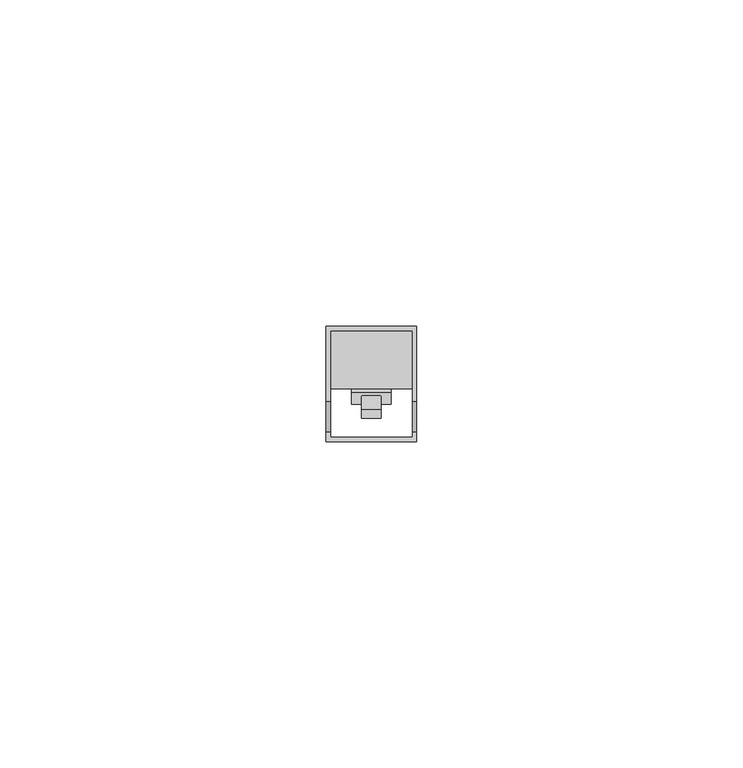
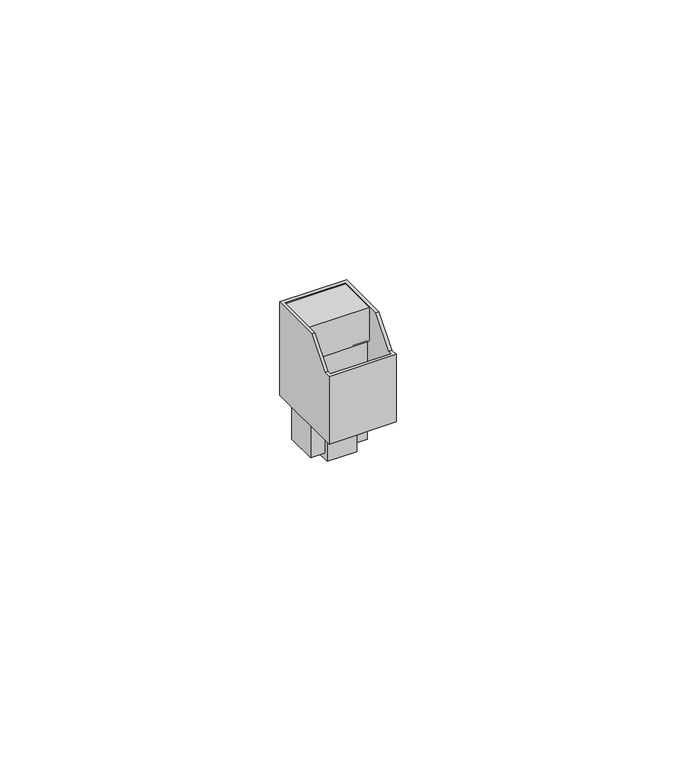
"""IFC4 building model written with IfcOpenShell, lengths in millimetres: electric appliance geometry, Data_Device-Network-Leviton-Port_Blocker : Port Blocker, Color Black."""

import ifcopenshell
import ifcopenshell.guid

model = None  # the IFC model being written
_history = None  # IfcOwnerHistory: only IFC2X3 demands one
_inside = {}  # id of a spatial element -> (the spatial element, [elements in it])
_under = {}  # id of a project, library or spatial element -> (it, [spatial elements below it])
_declared = {}  # id of a project -> (the project, [libraries it declares])
_typed = {}  # id of a type object -> (the type object, [elements of that type])
_made_of = {}  # id of a material, layer set ... -> (it, [elements and type objects made of it])


def new_model(schema):
    """Start an empty IFC model of exactly this schema.

    Asked for "IFC4X3", IfcOpenShell would pick the latest addendum, in which some entities
    have other attributes; the version numbers below select the first issue.
    IFC2X3 requires an IfcOwnerHistory on every rooted entity: one is made here for all.
    """
    global model, _history
    if schema == "IFC4X3":
        model = ifcopenshell.file(schema_version=(4, 3, 0, 0))
    else:
        model = ifcopenshell.file(schema=schema)
    _inside.clear()
    _under.clear()
    _declared.clear()
    _typed.clear()
    _made_of.clear()
    _history = None
    if model.schema == "IFC2X3":
        org = make("IfcOrganization", Name="unknown")
        user = make(
            "IfcPersonAndOrganization",
            ThePerson=make("IfcPerson", FamilyName="unknown"),
            TheOrganization=org,
        )
        app = make(
            "IfcApplication",
            ApplicationDeveloper=org,
            Version="unknown",
            ApplicationFullName="unknown",
            ApplicationIdentifier="unknown",
        )
        _history = make(
            "IfcOwnerHistory",
            OwningUser=user,
            OwningApplication=app,
            ChangeAction="ADDED",
            CreationDate=0,
        )
    return model


def make(cls, **values):
    """One entity of the class cls with the attributes given. An attribute that is None is left unset."""
    return model.create_entity(
        cls, **{name: value for name, value in values.items() if value is not None}
    )


def rooted(cls, **values):
    """An entity with a GlobalId (a new one), such as an element, a storey or a relation."""
    return make(cls, GlobalId=ifcopenshell.guid.new(), OwnerHistory=_history, **values)


def si_unit(unit_type, name, prefix=None):
    """IfcSIUnit, for example si_unit("LENGTHUNIT", "METRE", prefix="MILLI")."""
    return make("IfcSIUnit", UnitType=unit_type, Prefix=prefix, Name=name)


def assignment(units):
    """IfcUnitAssignment: the units of a project."""
    return None if units is None else make("IfcUnitAssignment", Units=units)


def point(xyz):
    """IfcCartesianPoint."""
    return None if xyz is None else make("IfcCartesianPoint", Coordinates=xyz)


def direction(xyz):
    """IfcDirection."""
    return None if xyz is None else make("IfcDirection", DirectionRatios=xyz)


def frame(location, z_axis=None, x_axis=None):
    """IfcAxis2Placement3D, a coordinate frame: its origin and axes. An axis left out is left unset."""
    return make(
        "IfcAxis2Placement3D",
        Location=point(location),
        Axis=direction(z_axis),
        RefDirection=direction(x_axis),
    )


def origin():
    """The frame at (0, 0, 0) with its axes left unset."""
    return frame((0.0, 0.0, 0.0))


def place(relative_to, where):
    """IfcLocalPlacement: puts the frame where relative to a parent placement (None: the world)."""
    return make(
        "IfcLocalPlacement", PlacementRelTo=relative_to, RelativePlacement=where
    )


def context(
    kind, dimensions, precision=None, world=None, true_north=None, identifier=None
):
    """IfcGeometricRepresentationContext, for example the 3D "Model" context."""
    return make(
        "IfcGeometricRepresentationContext",
        ContextIdentifier=identifier,
        ContextType=kind,
        CoordinateSpaceDimension=dimensions,
        Precision=precision,
        WorldCoordinateSystem=world,
        TrueNorth=true_north,
    )


def project(units=None, contexts=None):
    """IfcProject with its units and contexts."""
    return rooted(
        "IfcProject",
        Name="project",
        RepresentationContexts=contexts,
        UnitsInContext=assignment(units),
    )


def spatial(cls, under=None, at=None, **own):
    """A site, building, storey or space (cls), placed at a placement, below another one or the project."""
    s = rooted(cls, ObjectPlacement=at, **own)
    if under is not None:
        _under.setdefault(under.id(), (under, []))[1].append(s)
    return s


def polyline(points):
    """IfcPolyline through the points."""
    return make("IfcPolyline", Points=[point(p) for p in points])


def outline(outer, holes=None, kind="AREA"):
    """IfcArbitraryClosedProfileDef: a profile drawn as a closed curve; with holes, ...WithVoids."""
    if holes is None:
        return make("IfcArbitraryClosedProfileDef", ProfileType=kind, OuterCurve=outer)
    return make(
        "IfcArbitraryProfileDefWithVoids",
        ProfileType=kind,
        OuterCurve=outer,
        InnerCurves=holes,
    )


def extrude(swept, where, along, depth):
    """IfcExtrudedAreaSolid: the profile swept, set in the frame where, extruded along a direction by depth."""
    return make(
        "IfcExtrudedAreaSolid",
        SweptArea=swept,
        Position=where,
        ExtrudedDirection=direction(along),
        Depth=depth,
    )


def faces_of(points, faces, orient=None, outer=None):
    """IfcFace entities. A face is a list of loops; a loop is a list of indices into points, from 0.

    orient and outer hold one flag for each loop. By default every Orientation is true, the
    first loop of a face is its IfcFaceOuterBound and the others are IfcFaceBound.
    """
    made = []
    for i, loops in enumerate(faces):
        bounds = []
        for j, loop in enumerate(loops):
            is_outer = j == 0 if outer is None else outer[i][j]
            bounds.append(
                make(
                    "IfcFaceOuterBound" if is_outer else "IfcFaceBound",
                    Bound=make("IfcPolyLoop", Polygon=[points[k] for k in loop]),
                    Orientation=True if orient is None else orient[i][j],
                )
            )
        made.append(make("IfcFace", Bounds=bounds))
    return made


def faceted_brep(points, faces, orient=None, outer=None, voids=None):
    """IfcFacetedBrep: a solid bounded by flat faces; with voids (closed shells), ...WithVoids."""
    shared = [point(p) for p in points]
    hull = make("IfcClosedShell", CfsFaces=faces_of(shared, faces, orient, outer))
    if voids is None:
        return make("IfcFacetedBrep", Outer=hull)
    return make(
        "IfcFacetedBrepWithVoids",
        Outer=hull,
        Voids=[
            make(cls, CfsFaces=faces_of(shared, fs, o, b)) for cls, fs, o, b in voids
        ],
    )


def shape(context_of_items, identifier, shape_type, items):
    """IfcShapeRepresentation: the items that make up one representation, for example the "Body"."""
    return make(
        "IfcShapeRepresentation",
        ContextOfItems=context_of_items,
        RepresentationIdentifier=identifier,
        RepresentationType=shape_type,
        Items=items,
    )


def source(mapping_origin, context_of_items, identifier, shape_type, items):
    """IfcRepresentationMap: a shape defined once, which mapped items show again and again."""
    return make(
        "IfcRepresentationMap",
        MappingOrigin=mapping_origin,
        MappedRepresentation=shape(context_of_items, identifier, shape_type, items),
    )


def transform(
    local_origin,
    x_axis=None,
    y_axis=None,
    z_axis=None,
    scale=None,
    scale2=None,
    scale3=None,
    uniform=True,
):
    """IfcCartesianTransformationOperator3D, or its non-uniform kind. x_axis, y_axis, z_axis: its Axis1, 2, 3."""
    if uniform:
        return make(
            "IfcCartesianTransformationOperator3D",
            Axis1=direction(x_axis),
            Axis2=direction(y_axis),
            LocalOrigin=point(local_origin),
            Scale=scale,
            Axis3=direction(z_axis),
        )
    return make(
        "IfcCartesianTransformationOperator3DnonUniform",
        Axis1=direction(x_axis),
        Axis2=direction(y_axis),
        LocalOrigin=point(local_origin),
        Scale=scale,
        Axis3=direction(z_axis),
        Scale2=scale2,
        Scale3=scale3,
    )


def mapped(mapping_source, mapping_target):
    """IfcMappedItem: shows the shape of a source again, moved by a transform."""
    return make(
        "IfcMappedItem", MappingSource=mapping_source, MappingTarget=mapping_target
    )


def made_of(thing, what):
    """Note that an element or type object is made of a material, layer set ...; save() writes the relation."""
    if what is not None:
        _made_of.setdefault(what.id(), (what, []))[1].append(thing)
    return thing


def element(
    cls,
    number,
    at=None,
    inside=None,
    cuts=None,
    type_object=None,
    material=None,
    context=None,
    identifier="Body",
    shape_type=None,
    held_by="IfcProductDefinitionShape",
    body=None,
    shapes=None,
    **own,
):
    """One element of the class cls, such as IfcWall. Its Tag is "e" and its number.

    at: its placement. inside: the storey or other place that contains it. cuts: it is an
    opening in that element (IfcRelVoidsElement). A single representation is given by context,
    identifier, shape_type and body (its items); several are given by shapes. held_by: the class
    of the entity that holds the representations. save() writes the other relations.
    """
    e = rooted(cls, Tag="e%d" % number, ObjectPlacement=at, **own)
    if body is not None:
        shapes = [shape(context, identifier, shape_type, body)]
    if shapes is not None:
        e.Representation = make(held_by, Representations=shapes)
    if inside is not None:
        _inside.setdefault(inside.id(), (inside, []))[1].append(e)
    if cuts is not None:
        rooted(
            "IfcRelVoidsElement", RelatingBuildingElement=cuts, RelatedOpeningElement=e
        )
    if type_object is not None:
        _typed.setdefault(type_object.id(), (type_object, []))[1].append(e)
    return made_of(e, material)


def aggregate(whole, parts):
    """IfcRelAggregates: a whole, such as a stair, and the parts it consists of."""
    return rooted("IfcRelAggregates", RelatingObject=whole, RelatedObjects=parts)


def save(model, path):
    """Write the relations noted so far, then the file.

    IfcRelAggregates (storeys below a building ...), IfcRelContainedInSpatialStructure (elements
    in a storey), IfcRelDefinesByType, IfcRelAssociatesMaterial and IfcRelDeclares: one each for
    every whole, place, type object, material and project.
    """
    for whole, parts in _under.values():
        aggregate(whole, parts)
    for where, things in _inside.values():
        rooted(
            "IfcRelContainedInSpatialStructure",
            RelatedElements=things,
            RelatingStructure=where,
        )
    for kind, things in _typed.values():
        rooted("IfcRelDefinesByType", RelatedObjects=things, RelatingType=kind)
    for what, things in _made_of.values():
        rooted("IfcRelAssociatesMaterial", RelatedObjects=things, RelatingMaterial=what)
    for by, libraries in _declared.values():
        rooted("IfcRelDeclares", RelatingContext=by, RelatedDefinitions=libraries)
    model.write(path)


def electric_appliance_d75b9152(model_context):
    return source(origin(), model_context, "Body", "SolidModel", [
        faceted_brep([(-17.1831, 1.3852352, 12.9874807), (-17.1831, 1.3852352, -8.516448), (-17.1831, 8.1452673, -8.516448), (-17.1831, 8.1452673, 4.937922), (-17.1831, 9.1095013, 4.937922), (-17.1831, 9.1095013, 12.9874807), (-28.8671, 1.3852352, 12.9874807), (-28.8671, 9.1095013, 12.9874807), (-28.8671, 9.1095013, 4.937922), (-28.8671, 8.1452673, 4.937922), (-28.8671, 8.1452673, -8.516448), (-28.8671, 1.3852352, -8.516448), (-19.2208162, 9.1095013, 8.5523524), (-19.2208162, 9.1095013, 9.4413524), (-20.7203615, 9.1095013, 9.4413524), (-20.7203615, 9.1095013, 8.5523524), (-25.3298385, 9.1095013, 8.5523524), (-25.3298385, 9.1095013, 9.4413524), (-26.8293838, 9.1095013, 9.4413524), (-26.8293838, 9.1095013, 8.5523524), (-21.5553355, 9.1095013, 8.5523524), (-21.5553355, 9.1095013, 9.4413524), (-24.4948645, 9.1095013, 9.4413524), (-24.4948645, 9.1095013, 8.5523524), (-20.7203615, 9.8992825, 8.5523524), (-19.2208162, 9.8992825, 8.5523524), (-26.8293838, 9.8992825, 8.5523524), (-25.3298385, 9.8992825, 8.5523524), (-24.4948645, 9.8992825, 8.5523524), (-21.5553355, 9.8992825, 8.5523524), (-26.8293838, 9.8992825, 9.4413524), (-25.3298385, 9.8992825, 9.4413524), (-20.7203615, 9.8992825, 9.4413524), (-19.2208162, 9.8992825, 9.4413524), (-24.4948645, 9.8992825, 9.4413524), (-21.5553355, 9.8992825, 9.4413524)], [[[0, 1, 2, 3, 4, 5]], [[6, 7, 8, 9, 10, 11]], [[1, 0, 6, 11]], [[2, 1, 11, 10]], [[3, 2, 10, 9]], [[8, 4, 3, 9]], [[5, 4, 8, 7], [12, 13, 14, 15], [16, 17, 18, 19], [20, 21, 22, 23]], [[12, 15, 24, 25]], [[16, 19, 26, 27]], [[20, 23, 28, 29]], [[27, 26, 30, 31]], [[25, 24, 32, 33]], [[29, 28, 34, 35]], [[31, 30, 18, 17]], [[33, 32, 14, 13]], [[35, 34, 22, 21]], [[0, 5, 7, 6]], [[19, 18, 30, 26]], [[13, 12, 25, 33]], [[23, 22, 34, 28]], [[17, 16, 27, 31]], [[15, 14, 32, 24]], [[21, 20, 29, 35]]]),
        faceted_brep([(-19.9771, 3.4779952, -9.6185193), (-19.9771, 3.4779952, -8.516448), (-19.9771, 1.3852352, -8.516448), (-19.9771, 1.3852352, -5.3948475), (-19.9771, 0.4411843, -1.8074541), (-19.9771, -1.3832018, -1.8074541), (-19.9771, -1.208622, -2.6497513), (-19.9771, -0.1347657, -3.7236076), (-19.9771, 0.3166688, -5.4390586), (-19.9771, 0.3166688, -9.6185193), (-26.0731, 3.4779952, -9.6185193), (-26.0731, 0.3166688, -9.6185193), (-26.0731, 0.3166688, -5.4390586), (-26.0731, -0.1347657, -3.7236076), (-26.0731, -1.208622, -2.6497513), (-26.0731, -1.3832018, -1.8074541), (-26.0731, 0.4411843, -1.8074541), (-26.0731, 1.3852352, -5.3948475), (-26.0731, 1.3852352, -8.516448), (-26.0731, 3.4779952, -8.516448), (-24.5491, -1.3832018, -1.8074541), (-24.5491, -0.0122694, -1.8074541), (-21.5011, -0.0122694, -1.8074541), (-21.5011, -1.3832018, -1.8074541), (-21.5011, -3.5627175, 8.7080783), (-24.5491, -3.5627175, 8.7080783), (-21.5011, -2.1917851, 8.7080783), (-24.5491, -2.1917851, 8.7080783)], [[[0, 1, 2, 3, 4, 5, 6, 7, 8, 9]], [[10, 11, 12, 13, 14, 15, 16, 17, 18, 19]], [[1, 0, 10, 19]], [[2, 1, 19, 18]], [[3, 2, 18, 17]], [[4, 3, 17, 16]], [[5, 4, 16, 15, 20, 21, 22, 23]], [[6, 5, 23, 24, 25, 20, 15, 14]], [[7, 6, 14, 13]], [[8, 7, 13, 12]], [[9, 8, 12, 11]], [[0, 9, 11, 10]], [[24, 23, 22, 26]], [[25, 27, 21, 20]], [[26, 22, 21, 27]], [[24, 26, 27, 25]]]),
        faceted_brep([(-16.1036, -0.9358118, 20.32), (-16.1036, -5.6052843, 14.7551394), (-16.1036, -7.1187175, 14.7551394), (-16.1036, -7.1187175, 0.0), (-16.1036, 10.5342825, 0.0), (-16.1036, 10.5342825, 20.32), (-29.9466, -0.9358118, 20.32), (-29.9466, 10.5342825, 20.32), (-29.9466, 10.5342825, 0.0), (-29.9466, -7.1187175, 0.0), (-29.9466, -7.1187175, 14.7551394), (-29.9466, -5.6052843, 14.7551394), (-16.7386, 9.8992825, 0.0), (-29.3116, 9.8992825, 0.0), (-29.3116, -6.4837175, 0.0), (-16.7386, -6.4837175, 0.0), (-29.3116, -0.9358118, 20.32), (-29.3116, 9.8992825, 20.32), (-16.7386, 9.8992825, 20.32), (-16.7386, -0.9358118, 20.32), (-16.7386, -5.6052843, 14.7551394), (-29.3116, -5.6052843, 14.7551394), (-16.7386, -6.4837175, 14.7551394), (-29.3116, -6.4837175, 14.7551394)], [[[0, 1, 2, 3, 4, 5]], [[6, 7, 8, 9, 10, 11]], [[3, 2, 10, 9]], [[4, 3, 9, 8], [12, 13, 14, 15]], [[5, 4, 8, 7]], [[0, 5, 7, 6, 16, 17, 18, 19]], [[1, 0, 19, 20]], [[6, 11, 21, 16]], [[2, 1, 20, 22, 23, 21, 11, 10]], [[17, 13, 12, 18]], [[18, 12, 15, 22, 20, 19]], [[22, 15, 14, 23]], [[13, 17, 16, 21, 23, 14]]]),
        extrude(outline(polyline([(-16.7386, 9.8992825), (-16.7386, 1.0092825), (-29.3116, 1.0092825), (-29.3116, 9.8992825), (-16.7386, 9.8992825)])), frame((0.0, 0.0, 12.9874807), z_axis=(0.0, 0.0, 1.0), x_axis=(1.0, 0.0, 0.0)), (0.0, 0.0, 1.0), 7.3325193),
    ])


if __name__ == "__main__":
    model = new_model("IFC4")
    model_context = context("Model", 3, world=origin())
    ifc_project = project(units=[si_unit("LENGTHUNIT", "METRE", prefix="MILLI")], contexts=[model_context])
    site = spatial("IfcSite", under=ifc_project)
    building = spatial("IfcBuilding", under=site)
    placement = place(None, origin())
    electric_appliance_shape = electric_appliance_d75b9152(model_context)
    element("IfcElectricAppliance", 1, ObjectType="Data_Device-Network-Leviton-Port_Blocker : Port Blocker, Color Black", at=placement, inside=building, context=model_context, shape_type="MappedRepresentation", body=[
        mapped(electric_appliance_shape, transform((0.0, 0.0, 0.0), x_axis=(1.0, 0.0, 0.0), y_axis=(0.0, 1.0, 0.0), z_axis=(0.0, 0.0, 1.0))),
    ])
    save(model, "model.ifc")
